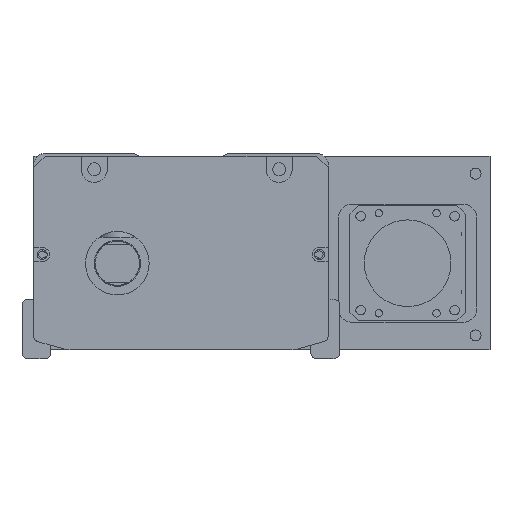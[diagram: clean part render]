
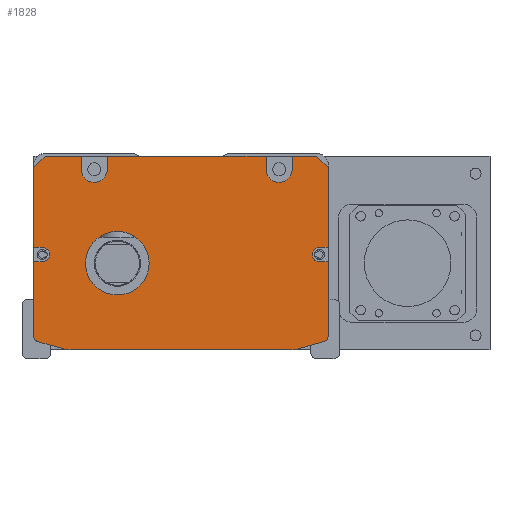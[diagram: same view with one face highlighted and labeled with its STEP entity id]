
A CAD part, front view. The second image highlights one B-rep face of the part: STEP entity #1828.
In plain terms, the highlighted planar face has unit normal (0, -1, 0).
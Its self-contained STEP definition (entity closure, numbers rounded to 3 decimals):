
#1828=ADVANCED_FACE('',(#4376,#4377),#2367,.F.);
#2367=PLANE('',#13833);
#2900=LINE('',#26666,#3695);
#2904=LINE('',#26675,#3699);
#2912=LINE('',#26702,#3707);
#2916=LINE('',#26711,#3711);
#2923=LINE('',#26727,#3718);
#2925=LINE('',#26732,#3720);
#2940=LINE('',#26775,#3735);
#2942=LINE('',#26783,#3737);
#2945=LINE('',#26787,#3740);
#2966=LINE('',#26855,#3761);
#2970=LINE('',#26864,#3765);
#2974=LINE('',#26873,#3769);
#2978=LINE('',#26882,#3773);
#2982=LINE('',#26898,#3777);
#2986=LINE('',#26904,#3781);
#2987=LINE('',#26905,#3782);
#2989=LINE('',#26921,#3784);
#2990=LINE('',#26922,#3785);
#2991=LINE('',#26923,#3786);
#2992=LINE('',#26924,#3787);
#3695=VECTOR('',#16325,1.);
#3699=VECTOR('',#16331,1.);
#3707=VECTOR('',#16353,1.);
#3711=VECTOR('',#16359,1.);
#3718=VECTOR('',#16368,1.);
#3720=VECTOR('',#16372,1.);
#3735=VECTOR('',#16411,1.);
#3737=VECTOR('',#16421,1.);
#3740=VECTOR('',#16426,1.);
#3761=VECTOR('',#16501,1.);
#3765=VECTOR('',#16507,1.);
#3769=VECTOR('',#16513,1.);
#3773=VECTOR('',#16519,1.);
#3777=VECTOR('',#16537,1.);
#3781=VECTOR('',#16541,1.);
#3782=VECTOR('',#16542,1.);
#3784=VECTOR('',#16566,1.);
#3785=VECTOR('',#16567,1.);
#3786=VECTOR('',#16568,1.);
#3787=VECTOR('',#16569,1.);
#4376=FACE_BOUND('',#5246,.T.);
#4377=FACE_BOUND('',#5247,.T.);
#5246=EDGE_LOOP('',(#7701,#7702,#7703,#7704,#7705,#7706,#7707,#7708,#7709,
#7710,#7711,#7712,#7713,#7714,#7715,#7716,#7717,#7718,#7719,#7720,#7721,
#7722,#7723,#7724,#7725,#7726,#7727,#7728));
#5247=EDGE_LOOP('',(#7729));
#7701=ORIENTED_EDGE('',*,*,#11662,.T.);
#7702=ORIENTED_EDGE('',*,*,#11539,.T.);
#7703=ORIENTED_EDGE('',*,*,#11649,.T.);
#7704=ORIENTED_EDGE('',*,*,#11566,.F.);
#7705=ORIENTED_EDGE('',*,*,#11603,.T.);
#7706=ORIENTED_EDGE('',*,*,#11568,.F.);
#7707=ORIENTED_EDGE('',*,*,#11654,.T.);
#7708=ORIENTED_EDGE('',*,*,#11555,.F.);
#7709=ORIENTED_EDGE('',*,*,#11600,.T.);
#7710=ORIENTED_EDGE('',*,*,#11559,.F.);
#7711=ORIENTED_EDGE('',*,*,#11653,.T.);
#7712=ORIENTED_EDGE('',*,*,#11543,.T.);
#7713=ORIENTED_EDGE('',*,*,#11663,.T.);
#7714=ORIENTED_EDGE('',*,*,#11633,.T.);
#7715=ORIENTED_EDGE('',*,*,#11661,.T.);
#7716=ORIENTED_EDGE('',*,*,#11629,.T.);
#7717=ORIENTED_EDGE('',*,*,#11664,.T.);
#7718=ORIENTED_EDGE('',*,*,#11586,.T.);
#7719=ORIENTED_EDGE('',*,*,#11589,.T.);
#7720=ORIENTED_EDGE('',*,*,#11592,.T.);
#7721=ORIENTED_EDGE('',*,*,#11593,.T.);
#7722=ORIENTED_EDGE('',*,*,#11549,.T.);
#7723=ORIENTED_EDGE('',*,*,#11596,.T.);
#7724=ORIENTED_EDGE('',*,*,#11551,.T.);
#7725=ORIENTED_EDGE('',*,*,#11665,.T.);
#7726=ORIENTED_EDGE('',*,*,#11641,.T.);
#7727=ORIENTED_EDGE('',*,*,#11660,.T.);
#7728=ORIENTED_EDGE('',*,*,#11637,.T.);
#7729=ORIENTED_EDGE('',*,*,#11605,.T.);
#10007=VERTEX_POINT('',#26667);
#10008=VERTEX_POINT('',#26668);
#10011=VERTEX_POINT('',#26676);
#10012=VERTEX_POINT('',#26677);
#10017=VERTEX_POINT('',#26688);
#10018=VERTEX_POINT('',#26690);
#10019=VERTEX_POINT('',#26694);
#10020=VERTEX_POINT('',#26695);
#10023=VERTEX_POINT('',#26703);
#10024=VERTEX_POINT('',#26704);
#10027=VERTEX_POINT('',#26712);
#10028=VERTEX_POINT('',#26713);
#10032=VERTEX_POINT('',#26722);
#10034=VERTEX_POINT('',#26726);
#10035=VERTEX_POINT('',#26730);
#10037=VERTEX_POINT('',#26733);
#10047=VERTEX_POINT('',#26763);
#10050=VERTEX_POINT('',#26768);
#10052=VERTEX_POINT('',#26774);
#10054=VERTEX_POINT('',#26780);
#10057=VERTEX_POINT('',#26806);
#10073=VERTEX_POINT('',#26853);
#10075=VERTEX_POINT('',#26856);
#10078=VERTEX_POINT('',#26863);
#10079=VERTEX_POINT('',#26865);
#10081=VERTEX_POINT('',#26871);
#10083=VERTEX_POINT('',#26874);
#10086=VERTEX_POINT('',#26881);
#10087=VERTEX_POINT('',#26883);
#11539=EDGE_CURVE('',#10007,#10008,#2900,.T.);
#11543=EDGE_CURVE('',#10011,#10012,#2904,.T.);
#11549=EDGE_CURVE('',#10018,#10017,#12708,.T.);
#11551=EDGE_CURVE('',#10019,#10020,#12709,.T.);
#11555=EDGE_CURVE('',#10023,#10024,#2912,.T.);
#11559=EDGE_CURVE('',#10027,#10028,#2916,.T.);
#11566=EDGE_CURVE('',#10034,#10032,#2923,.T.);
#11568=EDGE_CURVE('',#10035,#10037,#2925,.T.);
#11586=EDGE_CURVE('',#10047,#10050,#12716,.T.);
#11589=EDGE_CURVE('',#10050,#10052,#2940,.T.);
#11592=EDGE_CURVE('',#10052,#10054,#12718,.T.);
#11593=EDGE_CURVE('',#10054,#10018,#2942,.T.);
#11596=EDGE_CURVE('',#10017,#10019,#2945,.T.);
#11600=EDGE_CURVE('',#10023,#10028,#12721,.T.);
#11603=EDGE_CURVE('',#10034,#10037,#12724,.T.);
#11605=EDGE_CURVE('',#10057,#10057,#12725,.T.);
#11629=EDGE_CURVE('',#10075,#10073,#2966,.T.);
#11633=EDGE_CURVE('',#10079,#10078,#2970,.T.);
#11637=EDGE_CURVE('',#10083,#10081,#2974,.T.);
#11641=EDGE_CURVE('',#10087,#10086,#2978,.T.);
#11649=EDGE_CURVE('',#10008,#10032,#2982,.T.);
#11653=EDGE_CURVE('',#10027,#10011,#2986,.T.);
#11654=EDGE_CURVE('',#10035,#10024,#2987,.T.);
#11660=EDGE_CURVE('',#10086,#10083,#12739,.T.);
#11661=EDGE_CURVE('',#10078,#10075,#12740,.T.);
#11662=EDGE_CURVE('',#10081,#10007,#2989,.T.);
#11663=EDGE_CURVE('',#10012,#10079,#2990,.T.);
#11664=EDGE_CURVE('',#10073,#10047,#2991,.T.);
#11665=EDGE_CURVE('',#10020,#10087,#2992,.T.);
#12708=CIRCLE('',#13760,10.);
#12709=CIRCLE('',#13762,2.);
#12716=CIRCLE('',#13778,2.);
#12718=CIRCLE('',#13782,10.);
#12721=CIRCLE('',#13790,4.5);
#12724=CIRCLE('',#13795,4.5);
#12725=CIRCLE('',#13798,11.);
#12739=CIRCLE('',#13829,2.5);
#12740=CIRCLE('',#13831,2.5);
#13760=AXIS2_PLACEMENT_3D('',#26689,#16340,#16341);
#13762=AXIS2_PLACEMENT_3D('',#26693,#16345,#16346);
#13778=AXIS2_PLACEMENT_3D('',#26769,#16405,#16406);
#13782=AXIS2_PLACEMENT_3D('',#26781,#16417,#16418);
#13790=AXIS2_PLACEMENT_3D('',#26795,#16438,#16439);
#13795=AXIS2_PLACEMENT_3D('',#26801,#16448,#16449);
#13798=AXIS2_PLACEMENT_3D('',#26805,#16455,#16456);
#13829=AXIS2_PLACEMENT_3D('',#26917,#16558,#16559);
#13831=AXIS2_PLACEMENT_3D('',#26919,#16562,#16563);
#13833=AXIS2_PLACEMENT_3D('',#26925,#16570,#16571);
#16325=DIRECTION('',(-0.707,0.,0.707));
#16331=DIRECTION('',(-0.707,0.,-0.707));
#16340=DIRECTION('',(0.,-1.,0.));
#16341=DIRECTION('',(0.,0.,-1.));
#16345=DIRECTION('',(0.,-1.,0.));
#16346=DIRECTION('',(0.,0.,-1.));
#16353=DIRECTION('',(0.,0.,1.));
#16359=DIRECTION('',(0.,0.,-1.));
#16368=DIRECTION('',(0.,0.,1.));
#16372=DIRECTION('',(0.,0.,-1.));
#16405=DIRECTION('',(0.,-1.,0.));
#16406=DIRECTION('',(0.,0.,1.));
#16411=DIRECTION('',(0.963,0.,-0.269));
#16417=DIRECTION('',(0.,-1.,0.));
#16418=DIRECTION('',(0.,0.,1.));
#16421=DIRECTION('',(1.,0.,0.));
#16426=DIRECTION('',(0.963,0.,0.269));
#16438=DIRECTION('',(0.,1.,0.));
#16439=DIRECTION('',(0.,0.,1.));
#16448=DIRECTION('',(0.,1.,0.));
#16449=DIRECTION('',(0.,0.,1.));
#16455=DIRECTION('',(0.,1.,0.));
#16456=DIRECTION('',(0.,0.,1.));
#16501=DIRECTION('',(-1.,0.,0.));
#16507=DIRECTION('',(1.,0.,0.));
#16513=DIRECTION('',(1.,0.,0.));
#16519=DIRECTION('',(-1.,0.,0.));
#16537=DIRECTION('',(-1.,0.,0.));
#16541=DIRECTION('',(-1.,0.,0.));
#16542=DIRECTION('',(-1.,0.,0.));
#16558=DIRECTION('',(0.,1.,0.));
#16559=DIRECTION('',(0.,0.,1.));
#16562=DIRECTION('',(0.,1.,0.));
#16563=DIRECTION('',(0.,0.,1.));
#16566=DIRECTION('',(0.,0.,1.));
#16567=DIRECTION('',(0.,0.,-1.));
#16568=DIRECTION('',(0.,0.,-1.));
#16569=DIRECTION('',(0.,0.,1.));
#16570=DIRECTION('',(0.,1.,0.));
#16571=DIRECTION('',(-1.,0.,0.));
#26666=CARTESIAN_POINT('',(43.808,-217.5,-1.));
#26667=CARTESIAN_POINT('',(47.808,-217.5,-5.));
#26668=CARTESIAN_POINT('',(43.808,-217.5,-1.));
#26675=CARTESIAN_POINT('',(-54.192,-217.5,-5.));
#26676=CARTESIAN_POINT('',(-50.192,-217.5,-1.));
#26677=CARTESIAN_POINT('',(-54.192,-217.5,-5.));
#26688=CARTESIAN_POINT('',(37.424,-217.5,-67.631));
#26689=CARTESIAN_POINT('',(34.733,-217.5,-58.));
#26690=CARTESIAN_POINT('',(34.733,-217.5,-68.));
#26693=CARTESIAN_POINT('',(45.808,-217.5,-63.212));
#26694=CARTESIAN_POINT('',(46.346,-217.5,-65.138));
#26695=CARTESIAN_POINT('',(47.808,-217.5,-63.212));
#26702=CARTESIAN_POINT('',(-28.692,-217.5,-3.5));
#26703=CARTESIAN_POINT('',(-28.692,-217.5,-5.5));
#26704=CARTESIAN_POINT('',(-28.692,-217.5,-1.));
#26711=CARTESIAN_POINT('',(-37.692,-217.5,-1.));
#26712=CARTESIAN_POINT('',(-37.692,-217.5,-1.));
#26713=CARTESIAN_POINT('',(-37.692,-217.5,-5.5));
#26722=CARTESIAN_POINT('',(35.308,-217.5,-1.));
#26726=CARTESIAN_POINT('',(35.308,-217.5,-5.5));
#26727=CARTESIAN_POINT('',(35.308,-217.5,-1.));
#26730=CARTESIAN_POINT('',(26.308,-217.5,-1.));
#26732=CARTESIAN_POINT('',(26.308,-217.5,-1.));
#26733=CARTESIAN_POINT('',(26.308,-217.5,-5.5));
#26763=CARTESIAN_POINT('',(-54.192,-217.5,-63.212));
#26768=CARTESIAN_POINT('',(-52.731,-217.5,-65.138));
#26769=CARTESIAN_POINT('',(-52.192,-217.5,-63.212));
#26774=CARTESIAN_POINT('',(-43.809,-217.5,-67.631));
#26775=CARTESIAN_POINT('',(-55.807,-217.5,-64.279));
#26780=CARTESIAN_POINT('',(-41.118,-217.5,-68.));
#26781=CARTESIAN_POINT('',(-41.118,-217.5,-58.));
#26783=CARTESIAN_POINT('',(-54.692,-217.5,-68.));
#26787=CARTESIAN_POINT('',(49.422,-217.5,-64.279));
#26795=CARTESIAN_POINT('',(-33.192,-217.5,-5.5));
#26801=CARTESIAN_POINT('',(30.808,-217.5,-5.5));
#26805=CARTESIAN_POINT('',(-25.192,-217.5,-38.));
#26806=CARTESIAN_POINT('',(-25.192,-217.5,-27.));
#26853=CARTESIAN_POINT('',(-54.192,-217.5,-37.5));
#26855=CARTESIAN_POINT('',(-3.192,-217.5,-37.5));
#26856=CARTESIAN_POINT('',(-51.192,-217.5,-37.5));
#26863=CARTESIAN_POINT('',(-51.192,-217.5,-32.5));
#26864=CARTESIAN_POINT('',(-3.192,-217.5,-32.5));
#26865=CARTESIAN_POINT('',(-54.192,-217.5,-32.5));
#26871=CARTESIAN_POINT('',(47.808,-217.5,-32.5));
#26873=CARTESIAN_POINT('',(-3.192,-217.5,-32.5));
#26874=CARTESIAN_POINT('',(44.808,-217.5,-32.5));
#26881=CARTESIAN_POINT('',(44.808,-217.5,-37.5));
#26882=CARTESIAN_POINT('',(-3.192,-217.5,-37.5));
#26883=CARTESIAN_POINT('',(47.808,-217.5,-37.5));
#26898=CARTESIAN_POINT('',(-3.192,-217.5,-1.));
#26904=CARTESIAN_POINT('',(-54.192,-217.5,-1.));
#26905=CARTESIAN_POINT('',(-54.192,-217.5,-1.));
#26917=CARTESIAN_POINT('',(44.808,-217.5,-35.));
#26919=CARTESIAN_POINT('',(-51.192,-217.5,-35.));
#26921=CARTESIAN_POINT('',(47.808,-217.5,-1.));
#26922=CARTESIAN_POINT('',(-54.192,-217.5,-62.));
#26923=CARTESIAN_POINT('',(-54.192,-217.5,-62.));
#26924=CARTESIAN_POINT('',(47.808,-217.5,-1.));
#26925=CARTESIAN_POINT('',(-3.192,-217.5,-1.));
